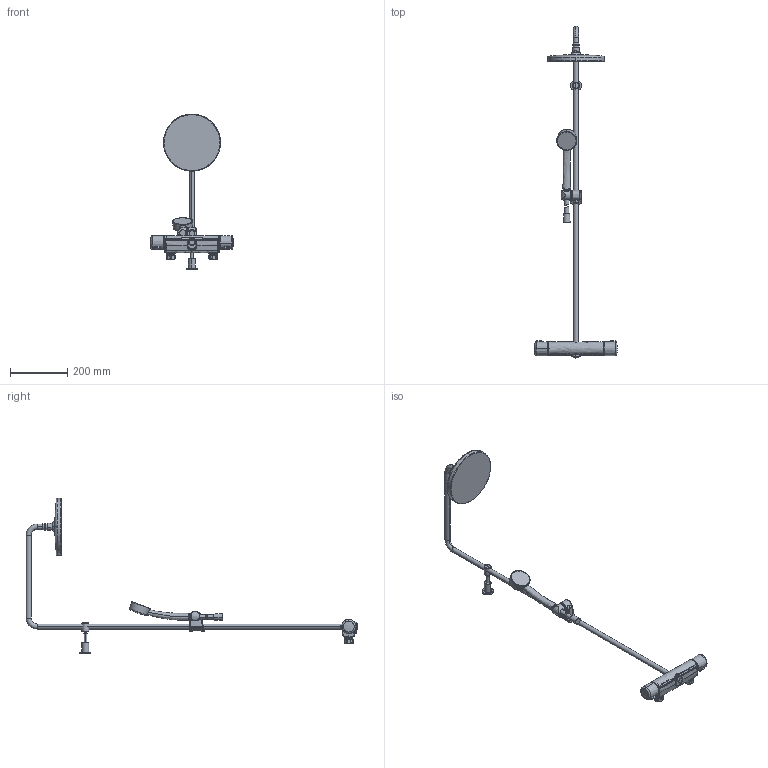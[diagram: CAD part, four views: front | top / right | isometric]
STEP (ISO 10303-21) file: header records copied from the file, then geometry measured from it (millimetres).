
FILE_DESCRIPTION (( 'STEP AP203' ), '1' );
FILE_NAME ('7401G(2022).STEP', '2022-03-03T13:27:50', ( '' ), ( '' ), 'SwSTEP 2.0', 'SolidWorks 2016', '' );
FILE_SCHEMA (( 'CONFIG_CONTROL_DESIGN' ));
Products named in the file (1): 7401G(2022)
Bounding box: 289.61 x 1162.4 x 545.7 mm (x, y, z)
Volume: 1717512.7 mm3; surface area: 346889.4 mm2
Topology: 22 solids, 22 shells, 823 faces, 1905 edges, 1130 vertices
Faces by surface type: bspline 321, cylinder 196, plane 114, torus 89, cone 73, sphere 30
Entity records: 58898 total; most frequent: CARTESIAN_POINT 42947, ORIENTED_EDGE 3778, DIRECTION 2675, EDGE_CURVE 1889, AXIS2_PLACEMENT_3D 1181, VERTEX_POINT 1130, EDGE_LOOP 845, FACE_OUTER_BOUND 823
